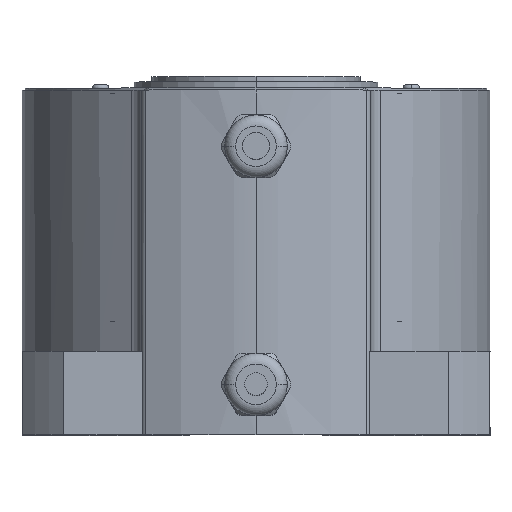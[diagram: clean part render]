
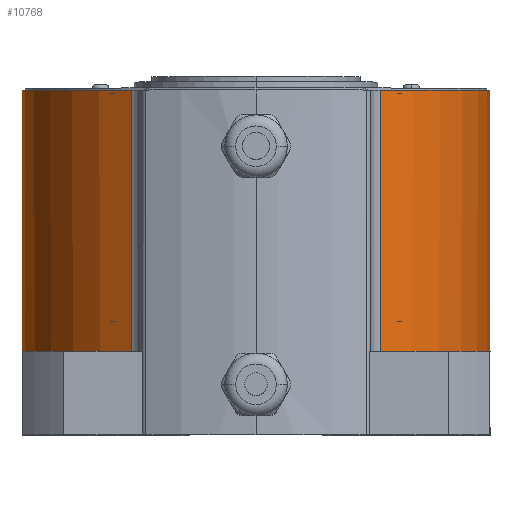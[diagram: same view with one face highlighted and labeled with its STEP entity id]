
A CAD part, top view. The second image highlights one B-rep face of the part: STEP entity #10768.
In plain terms, the highlighted cylindrical face has radius 56 mm (diameter 112 mm), a partial arc.
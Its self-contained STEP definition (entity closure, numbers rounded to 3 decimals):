
#56 = CYLINDRICAL_SURFACE ( 'NONE', #3040, 56. ) ;
#120 = AXIS2_PLACEMENT_3D ( 'NONE', #21401, #6280, #290 ) ;
#290 = DIRECTION ( 'NONE',  ( 0., 0., 1. ) ) ;
#427 = DIRECTION ( 'NONE',  ( 0., 1., 0. ) ) ;
#889 = VERTEX_POINT ( 'NONE', #21057 ) ;
#992 = ORIENTED_EDGE ( 'NONE', *, *, #8992, .T. ) ;
#1072 = VERTEX_POINT ( 'NONE', #2633 ) ;
#1143 = CARTESIAN_POINT ( 'NONE',  ( 0., -62.5, 0. ) ) ;
#1336 = LINE ( 'NONE', #16472, #4541 ) ;
#1814 = DIRECTION ( 'NONE',  ( 0., 1., 0. ) ) ;
#2229 = EDGE_CURVE ( 'NONE', #15168, #889, #1336, .T. ) ;
#2633 = CARTESIAN_POINT ( 'NONE',  ( 0., -62.5, -56. ) ) ;
#2833 = CARTESIAN_POINT ( 'NONE',  ( 0., 0., 0. ) ) ;
#2850 = CARTESIAN_POINT ( 'NONE',  ( -29.836, 0., 47.39 ) ) ;
#2959 = EDGE_CURVE ( 'NONE', #20925, #1072, #4858, .T. ) ;
#3019 = CIRCLE ( 'NONE', #7977, 56. ) ;
#3040 = AXIS2_PLACEMENT_3D ( 'NONE', #21814, #1814, #13321 ) ;
#3389 = VECTOR ( 'NONE', #14911, 1000. ) ;
#3485 = FACE_OUTER_BOUND ( 'NONE', #8809, .T. ) ;
#4123 = AXIS2_PLACEMENT_3D ( 'NONE', #2833, #13001, #11575 ) ;
#4341 = ORIENTED_EDGE ( 'NONE', *, *, #9918, .T. ) ;
#4342 = CARTESIAN_POINT ( 'NONE',  ( 56., -62.5, 0. ) ) ;
#4541 = VECTOR ( 'NONE', #18018, 1000. ) ;
#4858 = CIRCLE ( 'NONE', #20351, 56. ) ;
#4991 = CARTESIAN_POINT ( 'NONE',  ( -29.836, -62.5, 47.39 ) ) ;
#5185 = DIRECTION ( 'NONE',  ( 0., 1., 0. ) ) ;
#6280 = DIRECTION ( 'NONE',  ( 0., 1., 0. ) ) ;
#7615 = ORIENTED_EDGE ( 'NONE', *, *, #14934, .T. ) ;
#7935 = ORIENTED_EDGE ( 'NONE', *, *, #2959, .T. ) ;
#7977 = AXIS2_PLACEMENT_3D ( 'NONE', #8517, #5185, #20202 ) ;
#8197 = CARTESIAN_POINT ( 'NONE',  ( -29.836, -62.5, 47.39 ) ) ;
#8368 = EDGE_CURVE ( 'NONE', #1072, #18508, #9673, .T. ) ;
#8517 = CARTESIAN_POINT ( 'NONE',  ( 0., -62.5, 0. ) ) ;
#8809 = EDGE_LOOP ( 'NONE', ( #20225, #9719, #4341, #7935, #21800, #992, #7615 ) ) ;
#8942 = CARTESIAN_POINT ( 'NONE',  ( 29.836, 0., 47.39 ) ) ;
#8992 = EDGE_CURVE ( 'NONE', #18508, #20003, #21668, .T. ) ;
#9673 = CIRCLE ( 'NONE', #120, 56. ) ;
#9719 = ORIENTED_EDGE ( 'NONE', *, *, #2229, .T. ) ;
#9918 = EDGE_CURVE ( 'NONE', #889, #20925, #3019, .T. ) ;
#10768 = ADVANCED_FACE ( 'NONE', ( #3485 ), #56, .T. ) ;
#11536 = CIRCLE ( 'NONE', #4123, 56. ) ;
#11575 = DIRECTION ( 'NONE',  ( 0., 0., 1. ) ) ;
#13001 = DIRECTION ( 'NONE',  ( 0., 1., 0. ) ) ;
#13321 = DIRECTION ( 'NONE',  ( 0., 0., 1. ) ) ;
#13754 = VERTEX_POINT ( 'NONE', #2850 ) ;
#13898 = CARTESIAN_POINT ( 'NONE',  ( 0., -62.5, 0. ) ) ;
#14848 = DIRECTION ( 'NONE',  ( 0., 0., 1. ) ) ;
#14911 = DIRECTION ( 'NONE',  ( 0., 1., 0. ) ) ;
#14934 = EDGE_CURVE ( 'NONE', #20003, #13754, #20103, .T. ) ;
#14935 = CARTESIAN_POINT ( 'NONE',  ( -56., -62.5, 0. ) ) ;
#15168 = VERTEX_POINT ( 'NONE', #8942 ) ;
#16472 = CARTESIAN_POINT ( 'NONE',  ( 29.836, -62.5, 47.39 ) ) ;
#16736 = AXIS2_PLACEMENT_3D ( 'NONE', #13898, #427, #17325 ) ;
#17124 = EDGE_CURVE ( 'NONE', #15168, #13754, #11536, .T. ) ;
#17325 = DIRECTION ( 'NONE',  ( 0., 0., 1. ) ) ;
#18018 = DIRECTION ( 'NONE',  ( 0., -1., 0. ) ) ;
#18044 = DIRECTION ( 'NONE',  ( 0., 1., 0. ) ) ;
#18508 = VERTEX_POINT ( 'NONE', #14935 ) ;
#20003 = VERTEX_POINT ( 'NONE', #4991 ) ;
#20103 = LINE ( 'NONE', #8197, #3389 ) ;
#20202 = DIRECTION ( 'NONE',  ( 0., 0., 1. ) ) ;
#20225 = ORIENTED_EDGE ( 'NONE', *, *, #17124, .F. ) ;
#20351 = AXIS2_PLACEMENT_3D ( 'NONE', #1143, #18044, #14848 ) ;
#20925 = VERTEX_POINT ( 'NONE', #4342 ) ;
#21057 = CARTESIAN_POINT ( 'NONE',  ( 29.836, -62.5, 47.39 ) ) ;
#21401 = CARTESIAN_POINT ( 'NONE',  ( 0., -62.5, 0. ) ) ;
#21668 = CIRCLE ( 'NONE', #16736, 56. ) ;
#21800 = ORIENTED_EDGE ( 'NONE', *, *, #8368, .T. ) ;
#21814 = CARTESIAN_POINT ( 'NONE',  ( 0., -62.5, 0. ) ) ;
